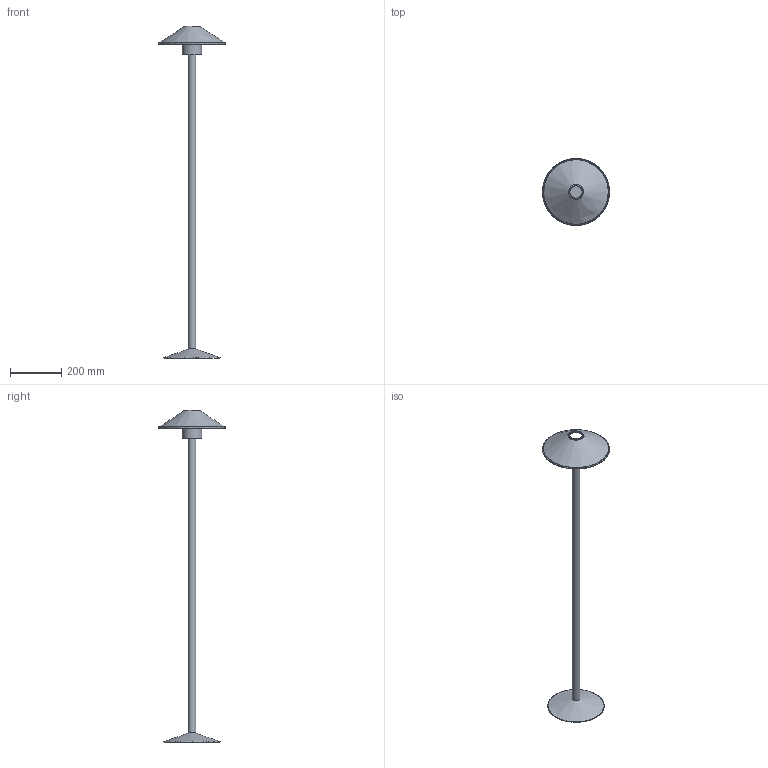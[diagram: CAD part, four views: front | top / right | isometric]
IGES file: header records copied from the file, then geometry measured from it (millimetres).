
Global section: file name: /Users/064_p/Desktop/3d data_02/ILKW_FLAMINGO26_Floor_3D.igs; native system: Rhinoceros ( Jul  7 2025 ); preprocessor: Trout Lake IGES 012 Jul  7 2025; date: 260828.081718; units: millimetre
Bounding box: 261.98 x 261.97 x 1300.98 mm (x, y, z)
Surface area: 300602.3 mm2 (no closed solid volume)
Topology: 0 solids, 0 shells, 11 faces, 45 edges, 38 vertices
Faces by surface type: bspline 11
